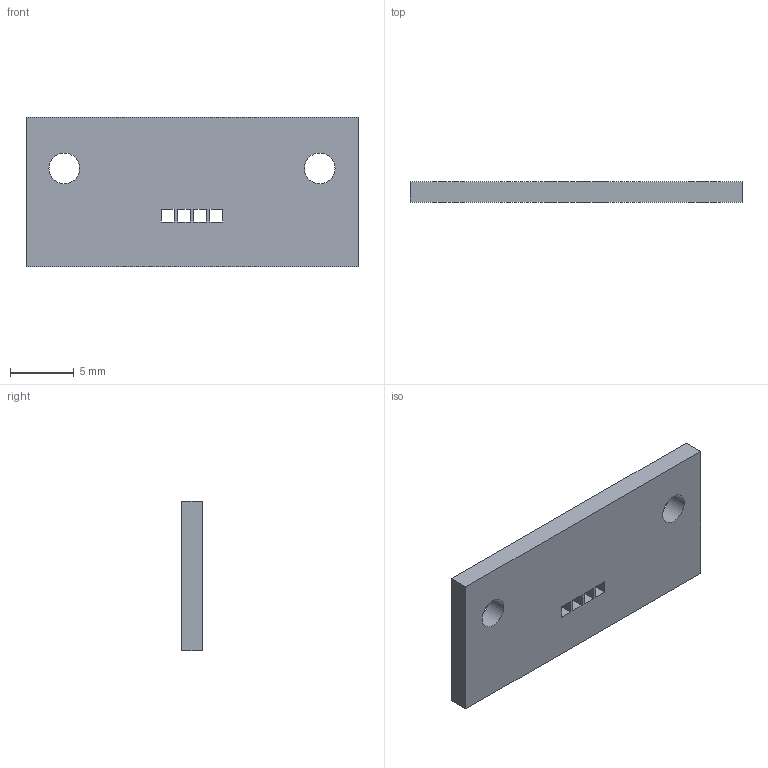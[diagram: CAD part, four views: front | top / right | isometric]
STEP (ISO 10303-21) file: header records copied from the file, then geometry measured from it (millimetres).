
FILE_DESCRIPTION(('Open CASCADE Model'),'2;1');
FILE_NAME('carrier_led_fr4_handwired','2026-09-08T13:43:18',('Author'),( 'Open CASCADE'),'Open CASCADE STEP processor 7.8','build123d', 'Unknown');
FILE_SCHEMA(('AUTOMOTIVE_DESIGN { 1 0 10303 214 1 1 1 1 }'));
Length unit declared in the file: millimetre
Products named in the file (2): =>[0:1:1:2]; carrier_led_fr4_handwired
Assembly tree (1 placements, depth 2):
  =>[0:1:1:2]
    carrier_led_fr4_handwired
Bounding box: 26 x 1.6 x 11.7 mm (x, y, z)
Volume: 465.8 mm3; surface area: 752.7 mm2
Topology: 1 solids, 1 shells, 24 faces, 66 edges, 44 vertices
Faces by surface type: plane 22, cylinder 2
Full cylindrical faces by diameter (mm): 2.4 x2
Entity records: 1664 total; most frequent: CARTESIAN_POINT 268, DIRECTION 254, LINE 190, VECTOR 190, ORIENTED_EDGE 132, PCURVE 132, DEFINITIONAL_REPRESENTATION 132, EDGE_CURVE 66
